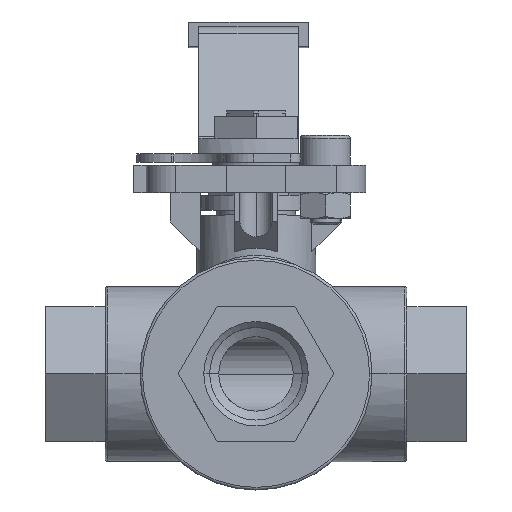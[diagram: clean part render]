
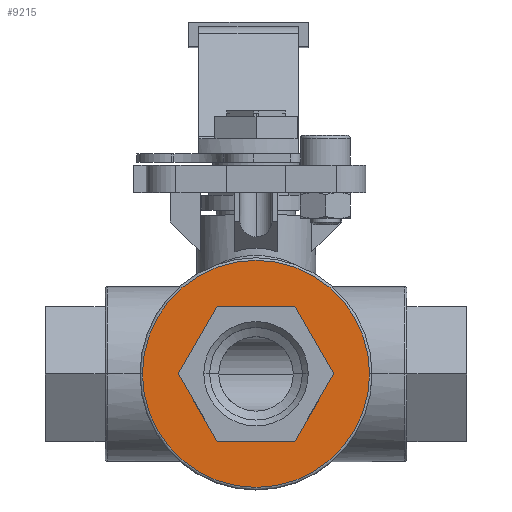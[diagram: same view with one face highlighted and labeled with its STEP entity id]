
A CAD part, top view. The second image highlights one B-rep face of the part: STEP entity #9215.
In plain terms, the highlighted planar face has unit normal (0, 0, 1).
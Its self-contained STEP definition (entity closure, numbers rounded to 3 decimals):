
#357 = EDGE_CURVE ( 'NONE', #5322, #5221, #11191, .T. ) ;
#626 = EDGE_CURVE ( 'NONE', #4904, #5251, #11570, .T. ) ;
#627 = EDGE_CURVE ( 'NONE', #5221, #5322, #11580, .T. ) ;
#628 = EDGE_CURVE ( 'NONE', #5134, #5132, #11576, .T. ) ;
#629 = EDGE_CURVE ( 'NONE', #5132, #5135, #11579, .T. ) ;
#630 = EDGE_CURVE ( 'NONE', #5251, #5134, #11578, .T. ) ;
#631 = EDGE_CURVE ( 'NONE', #5136, #4904, #11577, .T. ) ;
#632 = EDGE_CURVE ( 'NONE', #5135, #5136, #11582, .T. ) ;
#1289 = CARTESIAN_POINT ( 'NONE',  ( -15.646, 0., 30.4 ) ) ;
#1291 = CARTESIAN_POINT ( 'NONE',  ( 15.646, 0., 30.4 ) ) ;
#1292 = DIRECTION ( 'NONE',  ( 0.5, -0.866, 0. ) ) ;
#1293 = CARTESIAN_POINT ( 'NONE',  ( 0., 0., 30.4 ) ) ;
#1294 = DIRECTION ( 'NONE',  ( 0., 0., 1. ) ) ;
#1295 = DIRECTION ( 'NONE',  ( 1., 0., 0. ) ) ;
#1296 = CARTESIAN_POINT ( 'NONE',  ( 7.823, -13.55, 30.4 ) ) ;
#1297 = DIRECTION ( 'NONE',  ( 0.5, 0.866, 0. ) ) ;
#1298 = CARTESIAN_POINT ( 'NONE',  ( -7.823, -13.55, 30.4 ) ) ;
#1299 = DIRECTION ( 'NONE',  ( -0.5, 0.866, 0. ) ) ;
#1300 = CARTESIAN_POINT ( 'NONE',  ( -7.823, 13.55, 30.4 ) ) ;
#1301 = DIRECTION ( 'NONE',  ( 1., 0., 0. ) ) ;
#1302 = CARTESIAN_POINT ( 'NONE',  ( 7.823, 13.55, 30.4 ) ) ;
#1303 = DIRECTION ( 'NONE',  ( -0.5, -0.866, 0. ) ) ;
#1306 = DIRECTION ( 'NONE',  ( -1., 0., 0. ) ) ;
#2255 = AXIS2_PLACEMENT_3D ( 'NONE', #7653, #7654, #7655 ) ;
#2356 = AXIS2_PLACEMENT_3D ( 'NONE', #1293, #1294, #1295 ) ;
#2624 = AXIS2_PLACEMENT_3D ( 'NONE', #10592, #10608, #10609 ) ;
#3636 = ORIENTED_EDGE ( 'NONE', *, *, #632, .F. ) ;
#3637 = ORIENTED_EDGE ( 'NONE', *, *, #631, .F. ) ;
#3638 = ORIENTED_EDGE ( 'NONE', *, *, #626, .F. ) ;
#3639 = ORIENTED_EDGE ( 'NONE', *, *, #630, .F. ) ;
#3640 = ORIENTED_EDGE ( 'NONE', *, *, #628, .F. ) ;
#3641 = ORIENTED_EDGE ( 'NONE', *, *, #629, .F. ) ;
#3642 = ORIENTED_EDGE ( 'NONE', *, *, #627, .T. ) ;
#3643 = ORIENTED_EDGE ( 'NONE', *, *, #357, .T. ) ;
#4032 = EDGE_LOOP ( 'NONE', ( #3641, #3640, #3639, #3638, #3637, #3636 ) ) ;
#4045 = EDGE_LOOP ( 'NONE', ( #3643, #3642 ) ) ;
#4904 = VERTEX_POINT ( 'NONE', #9445 ) ;
#5132 = VERTEX_POINT ( 'NONE', #9672 ) ;
#5134 = VERTEX_POINT ( 'NONE', #9674 ) ;
#5135 = VERTEX_POINT ( 'NONE', #9675 ) ;
#5136 = VERTEX_POINT ( 'NONE', #9676 ) ;
#5221 = VERTEX_POINT ( 'NONE', #9761 ) ;
#5251 = VERTEX_POINT ( 'NONE', #9791 ) ;
#5322 = VERTEX_POINT ( 'NONE', #9862 ) ;
#7653 = CARTESIAN_POINT ( 'NONE',  ( 0., 0., 30.4 ) ) ;
#7654 = DIRECTION ( 'NONE',  ( 0., 0., 1. ) ) ;
#7655 = DIRECTION ( 'NONE',  ( 1., 0., 0. ) ) ;
#8748 = FACE_BOUND ( 'NONE', #4032, .T. ) ;
#8750 = FACE_OUTER_BOUND ( 'NONE', #4045, .T. ) ;
#9215 = ADVANCED_FACE ( 'NONE', ( #8750, #8748 ), #10607, .T. ) ;
#9445 = CARTESIAN_POINT ( 'NONE',  ( -15.646, 0., 30.4 ) ) ;
#9672 = CARTESIAN_POINT ( 'NONE',  ( 15.646, 0., 30.4 ) ) ;
#9674 = CARTESIAN_POINT ( 'NONE',  ( 7.823, -13.55, 30.4 ) ) ;
#9675 = CARTESIAN_POINT ( 'NONE',  ( 7.823, 13.55, 30.4 ) ) ;
#9676 = CARTESIAN_POINT ( 'NONE',  ( -7.823, 13.55, 30.4 ) ) ;
#9761 = CARTESIAN_POINT ( 'NONE',  ( -22.85, 0., 30.4 ) ) ;
#9791 = CARTESIAN_POINT ( 'NONE',  ( -7.823, -13.55, 30.4 ) ) ;
#9862 = CARTESIAN_POINT ( 'NONE',  ( 22.85, 0., 30.4 ) ) ;
#10592 = CARTESIAN_POINT ( 'NONE',  ( 0., 0., 30.4 ) ) ;
#10607 = PLANE ( 'NONE',  #2624 ) ;
#10608 = DIRECTION ( 'NONE',  ( 0., 0., 1. ) ) ;
#10609 = DIRECTION ( 'NONE',  ( 1., 0., 0. ) ) ;
#11191 = CIRCLE ( 'NONE', #2255, 22.85 ) ;
#11570 = LINE ( 'NONE', #1289, #11575 ) ;
#11574 = VECTOR ( 'NONE', #1297, 1000. ) ;
#11575 = VECTOR ( 'NONE', #1292, 1000. ) ;
#11576 = LINE ( 'NONE', #1296, #11574 ) ;
#11577 = LINE ( 'NONE', #1300, #11584 ) ;
#11578 = LINE ( 'NONE', #1298, #11583 ) ;
#11579 = LINE ( 'NONE', #1291, #11581 ) ;
#11580 = CIRCLE ( 'NONE', #2356, 22.85 ) ;
#11581 = VECTOR ( 'NONE', #1299, 1000. ) ;
#11582 = LINE ( 'NONE', #1302, #11585 ) ;
#11583 = VECTOR ( 'NONE', #1301, 1000. ) ;
#11584 = VECTOR ( 'NONE', #1303, 1000. ) ;
#11585 = VECTOR ( 'NONE', #1306, 1000. ) ;
